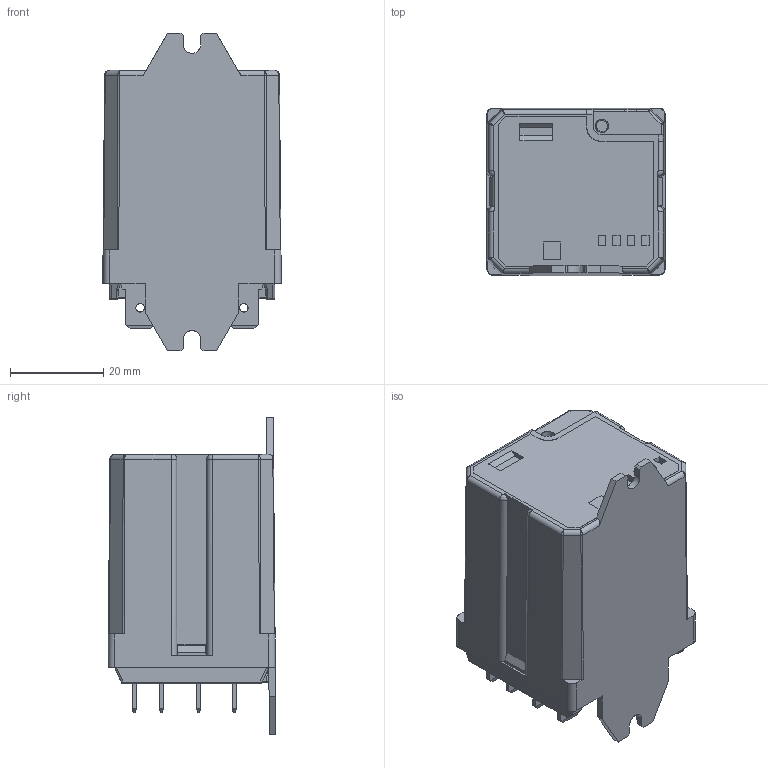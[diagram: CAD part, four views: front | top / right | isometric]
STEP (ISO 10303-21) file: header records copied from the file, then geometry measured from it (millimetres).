
FILE_DESCRIPTION(('STEP AP214'),'2;1');
FILE_NAME('6282.stp','2011-09-28T16:27:46',(''),(''),'2007.1.106','THINKDESIGN','');
FILE_SCHEMA(('AUTOMOTIVE_DESIGN'));
Length unit declared in the file: millimetre
Products named in the file (1): None
Bounding box: 38.2 x 35.93 x 68.01 mm (x, y, z)
Surface area: 13945.4 mm2 (no closed solid volume)
Topology: 0 solids, 0 shells, 502 faces, 2767 edges, 2729 vertices
Faces by surface type: plane 316, cylinder 107, bspline 79
Full cylindrical faces by diameter (mm): 1.8 x8, 5 x1
Entity records: 30910 total; most frequent: CARTESIAN_POINT 11299, DIRECTION 3221, COMPOSITE_CURVE_SEGMENT 2743, TRIMMED_CURVE 2237, VECTOR 2135, LINE 2135, AXIS2_PLACEMENT_3D 543, OUTER_BOUNDARY_CURVE 502
